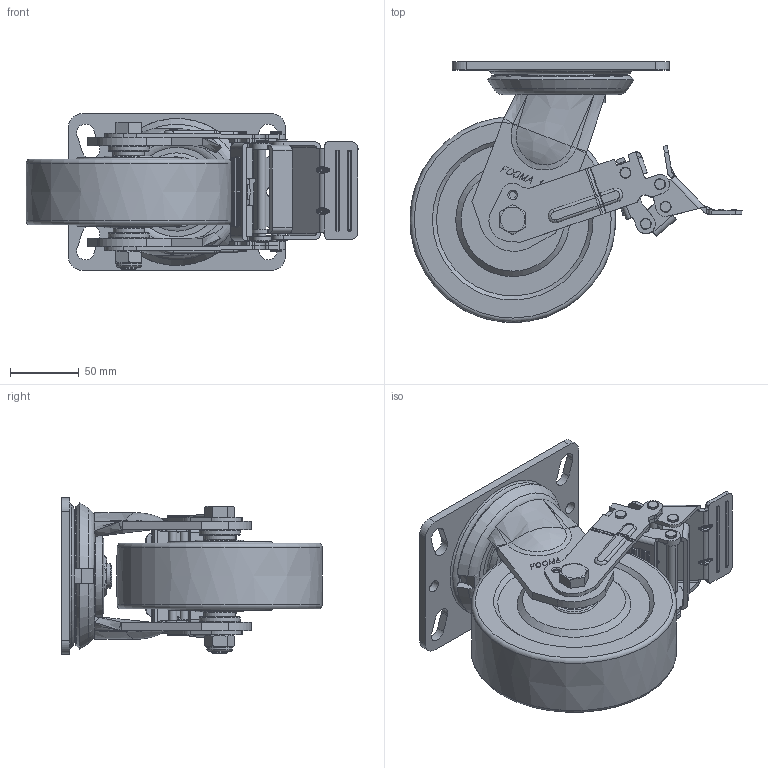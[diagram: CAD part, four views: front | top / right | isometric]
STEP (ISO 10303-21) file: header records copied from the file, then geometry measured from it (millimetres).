
FILE_DESCRIPTION(/* description */ (''),/* implementation_level */ '2;1');
FILE_NAME(/* name */ 'E:\★.DWG\PMH-SERIES\3D\홈페이지용\20180122-STEP\PMH-150-BSF-MCD-FRN.stp',/* time_stamp */ '2018-01-22T14:44:46+09:00',/* author */ ('장용하'),/* organization */ (''),/* preprocessor_version */ 'ST-DEVELOPER v16.13',/* originating_system */ 'Autodesk Inventor 2018',/* authorisation */ '');
FILE_SCHEMA (('AUTOMOTIVE_DESIGN { 1 0 10303 214 3 1 1 }'));
Products named in the file (1): PMH-150-BSF-MCD-FRN_Shrinkwrap_1
Bounding box: 241.71 x 189.79 x 114 mm (x, y, z)
Volume: 1248302.9 mm3; surface area: 194825.3 mm2
Topology: 3 solids, 3 shells, 1707 faces, 4565 edges, 2916 vertices
Faces by surface type: plane 1111, cylinder 352, bspline 133, torus 73, cone 30, sphere 8
Full cylindrical faces by diameter (mm): 4 x4, 5 x2, 6 x4, 6.2 x13, 7.7 x2, 8 x10, 9 x2, 12 x1, 18 x1, 18.5 x1, 21.667 x2, 21.867 x2, 22.9 x2, 28.133 x2, 28.333 x2, 30 x2, 35 x2, 65 x1, 90.814 x1
Entity records: 56105 total; most frequent: CARTESIAN_POINT 12451, ORIENTED_EDGE 8782, DIRECTION 8359, EDGE_CURVE 4391, LINE 3271, VECTOR 3271, VERTEX_POINT 2882, AXIS2_PLACEMENT_3D 2544
